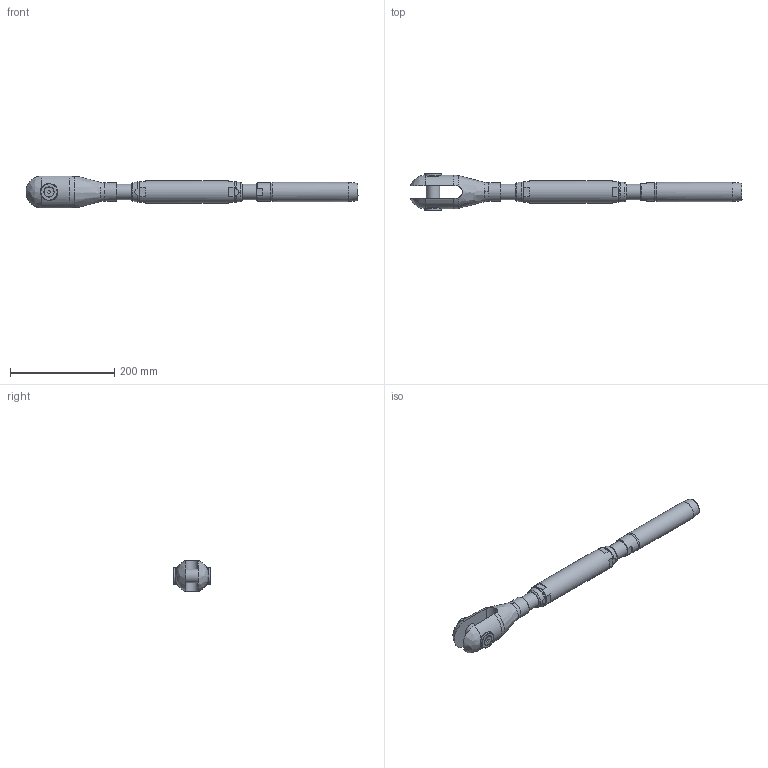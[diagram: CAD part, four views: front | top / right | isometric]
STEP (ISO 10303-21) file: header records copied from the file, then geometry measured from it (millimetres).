
FILE_DESCRIPTION(/* description */ (''),/* implementation_level */ '2;1');
FILE_NAME(/* name */ 'TBC 18_1,4462',/* time_stamp */ '2023-05-23T18:17:06+02:00',/* author */ (''),/* organization */ (''),/* preprocessor_version */ 'ST-DEVELOPER v16.5',/* originating_system */ 'Rhino 7.22',/* authorisation */ '');
FILE_SCHEMA (('CONFIG_CONTROL_DESIGN'));
Length unit declared in the file: millimetre
Products named in the file (1): Document
Bounding box: 636.15 x 72.16 x 60.41 mm (x, y, z)
Volume: 775082.8 mm3; surface area: 149648.5 mm2
Topology: 10 solids, 10 shells, 141 faces, 383 edges, 264 vertices
Faces by surface type: plane 65, bspline 41, cylinder 35
Full cylindrical faces by diameter (mm): 8.376 x2, 10 x2, 10.5 x2, 19.22 x2, 26 x1, 26.211 x4, 28 x2, 30 x2, 32 x2, 35 x3, 36.8 x1, 43 x1
Entity records: 5906 total; most frequent: CARTESIAN_POINT 3474, ORIENTED_EDGE 758, EDGE_CURVE 379, VERTEX_POINT 264, EDGE_LOOP 161, B_SPLINE_CURVE_WITH_KNOTS 158, ADVANCED_FACE 141, FACE_OUTER_BOUND 141
